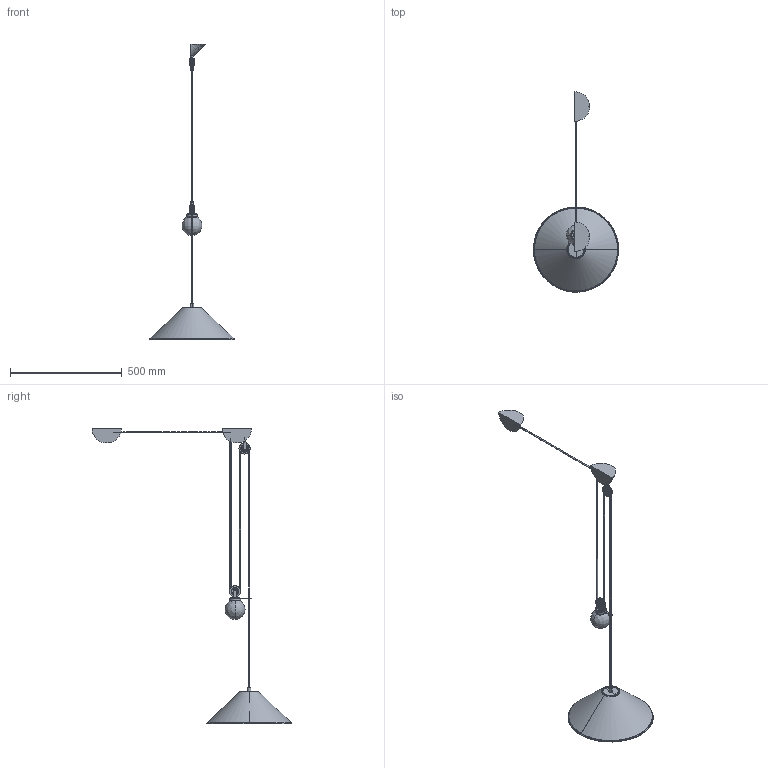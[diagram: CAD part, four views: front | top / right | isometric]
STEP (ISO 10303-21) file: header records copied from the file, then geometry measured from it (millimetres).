
FILE_DESCRIPTION(/* description */ (''),/* implementation_level */ '2;1');
FILE_NAME(/* name */ 'Aggregato_Saliscendi_Conico_Decentrato_d38_3D',/* time_stamp */ '2021-10-25T18:09:45+02:00',/* author */ (''),/* organization */ (''),/* preprocessor_version */ 'ST-DEVELOPER v15',/* originating_system */ '',/* authorisation */ '');
FILE_SCHEMA (('AUTOMOTIVE_DESIGN'));
Length unit declared in the file: millimetre
Products named in the file (6): Document; (#3781) Blocco 04; (#3780) Blocco 05; (#3779) Blocco 03; (#3778) Blocco 02; (#3777) Blocco 01 01
Assembly tree (5 placements, depth 2):
  Document
    (#3781) Blocco 04
    (#3780) Blocco 05
    (#3779) Blocco 03
    (#3778) Blocco 02
    (#3777) Blocco 01 01
Bounding box: 382 x 895.29 x 1323.61 mm (x, y, z)
Volume: 380176 mm3; surface area: 508600.8 mm2
Topology: 2 solids, 107 shells, 172 faces, 526 edges, 440 vertices
Faces by surface type: bspline 95, plane 77
Entity records: 7413 total; most frequent: CARTESIAN_POINT 4399, ORIENTED_EDGE 655, EDGE_CURVE 520, VERTEX_POINT 440, EDGE_LOOP 185, ADVANCED_FACE 170, FACE_OUTER_BOUND 170, B_SPLINE_CURVE_WITH_KNOTS 132
